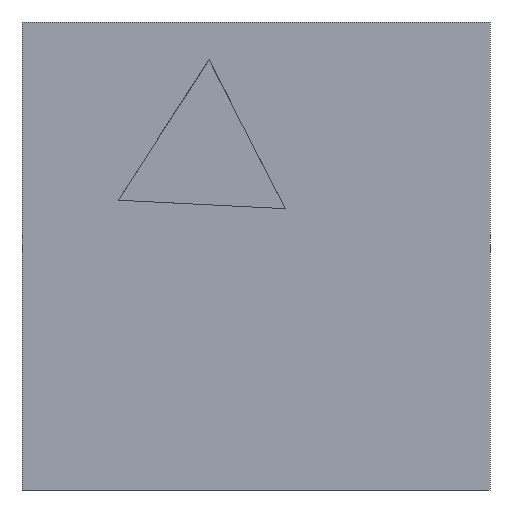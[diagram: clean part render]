
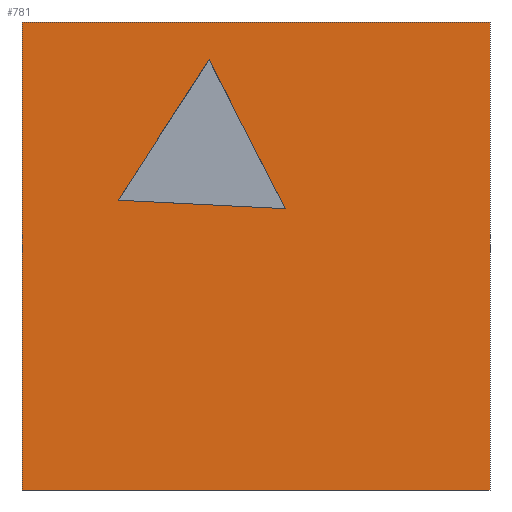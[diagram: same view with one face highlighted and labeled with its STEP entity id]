
A CAD part, front view. The second image highlights one B-rep face of the part: STEP entity #781.
In plain terms, the highlighted planar face has unit normal (0, -1, 0).
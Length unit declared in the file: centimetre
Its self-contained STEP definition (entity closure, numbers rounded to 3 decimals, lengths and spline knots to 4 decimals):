
#23 = VECTOR ( 'NONE', #36, 100. ) ;
#25 = EDGE_CURVE ( 'NONE', #679, #180, #540, .T. ) ;
#36 = DIRECTION ( 'NONE',  ( -0.543, 0., -0.84 ) ) ;
#40 = VERTEX_POINT ( 'NONE', #746 ) ;
#44 = ORIENTED_EDGE ( 'NONE', *, *, #555, .T. ) ;
#48 = DIRECTION ( 'NONE',  ( 0., 0., -1. ) ) ;
#50 = CARTESIAN_POINT ( 'NONE',  ( 399.6637, 0., 919.4031 ) ) ;
#56 = ORIENTED_EDGE ( 'NONE', *, *, #397, .F. ) ;
#79 = DIRECTION ( 'NONE',  ( -0.455, 0., 0.89 ) ) ;
#103 = ORIENTED_EDGE ( 'NONE', *, *, #25, .F. ) ;
#121 = FACE_OUTER_BOUND ( 'NONE', #730, .T. ) ;
#125 = CARTESIAN_POINT ( 'NONE',  ( 0., 0., 1000. ) ) ;
#133 = DIRECTION ( 'NONE',  ( 0., 1., 0. ) ) ;
#167 = EDGE_CURVE ( 'NONE', #40, #679, #363, .T. ) ;
#180 = VERTEX_POINT ( 'NONE', #340 ) ;
#181 = CARTESIAN_POINT ( 'NONE',  ( 1000., 0., 1000. ) ) ;
#184 = VECTOR ( 'NONE', #192, 100. ) ;
#189 = LINE ( 'NONE', #125, #467 ) ;
#192 = DIRECTION ( 'NONE',  ( 1., 0., 0. ) ) ;
#213 = ORIENTED_EDGE ( 'NONE', *, *, #333, .T. ) ;
#222 = DIRECTION ( 'NONE',  ( 0.999, 0., -0.051 ) ) ;
#247 = CARTESIAN_POINT ( 'NONE',  ( 0., 0., 0. ) ) ;
#251 = FACE_BOUND ( 'NONE', #286, .T. ) ;
#284 = VERTEX_POINT ( 'NONE', #497 ) ;
#286 = EDGE_LOOP ( 'NONE', ( #428, #496, #103 ) ) ;
#306 = LINE ( 'NONE', #813, #591 ) ;
#333 = EDGE_CURVE ( 'NONE', #284, #547, #695, .T. ) ;
#340 = CARTESIAN_POINT ( 'NONE',  ( 562.4918, 0., 601.052 ) ) ;
#363 = LINE ( 'NONE', #50, #23 ) ;
#378 = CARTESIAN_POINT ( 'NONE',  ( 0., 0., 1000. ) ) ;
#379 = AXIS2_PLACEMENT_3D ( 'NONE', #648, #133, #571 ) ;
#397 = EDGE_CURVE ( 'NONE', #454, #547, #306, .T. ) ;
#428 = ORIENTED_EDGE ( 'NONE', *, *, #167, .F. ) ;
#454 = VERTEX_POINT ( 'NONE', #181 ) ;
#457 = CARTESIAN_POINT ( 'NONE',  ( 562.4918, 0., 601.052 ) ) ;
#467 = VECTOR ( 'NONE', #506, 100. ) ;
#470 = EDGE_CURVE ( 'NONE', #180, #40, #701, .T. ) ;
#496 = ORIENTED_EDGE ( 'NONE', *, *, #470, .F. ) ;
#497 = CARTESIAN_POINT ( 'NONE',  ( 0., 0., 0. ) ) ;
#498 = CARTESIAN_POINT ( 'NONE',  ( 1000., 0., 0. ) ) ;
#506 = DIRECTION ( 'NONE',  ( 0., 0., -1. ) ) ;
#522 = VECTOR ( 'NONE', #79, 100. ) ;
#540 = LINE ( 'NONE', #792, #687 ) ;
#547 = VERTEX_POINT ( 'NONE', #498 ) ;
#555 = EDGE_CURVE ( 'NONE', #556, #284, #189, .T. ) ;
#556 = VERTEX_POINT ( 'NONE', #378 ) ;
#566 = LINE ( 'NONE', #759, #184 ) ;
#571 = DIRECTION ( 'NONE',  ( 0., 0., 1. ) ) ;
#591 = VECTOR ( 'NONE', #48, 100. ) ;
#639 = PLANE ( 'NONE',  #379 ) ;
#640 = VECTOR ( 'NONE', #691, 100. ) ;
#648 = CARTESIAN_POINT ( 'NONE',  ( 0., 0., 1000. ) ) ;
#679 = VERTEX_POINT ( 'NONE', #798 ) ;
#687 = VECTOR ( 'NONE', #222, 100. ) ;
#691 = DIRECTION ( 'NONE',  ( 1., 0., 0. ) ) ;
#695 = LINE ( 'NONE', #247, #640 ) ;
#701 = LINE ( 'NONE', #457, #522 ) ;
#730 = EDGE_LOOP ( 'NONE', ( #213, #56, #801, #44 ) ) ;
#746 = CARTESIAN_POINT ( 'NONE',  ( 399.6637, 0., 919.4031 ) ) ;
#759 = CARTESIAN_POINT ( 'NONE',  ( 0., 0., 1000. ) ) ;
#781 = ADVANCED_FACE ( 'NONE', ( #251, #121 ), #639, .F. ) ;
#792 = CARTESIAN_POINT ( 'NONE',  ( 205.3776, 0., 619.2143 ) ) ;
#798 = CARTESIAN_POINT ( 'NONE',  ( 205.3776, 0., 619.2143 ) ) ;
#801 = ORIENTED_EDGE ( 'NONE', *, *, #814, .F. ) ;
#813 = CARTESIAN_POINT ( 'NONE',  ( 1000., 0., 1000. ) ) ;
#814 = EDGE_CURVE ( 'NONE', #556, #454, #566, .T. ) ;
